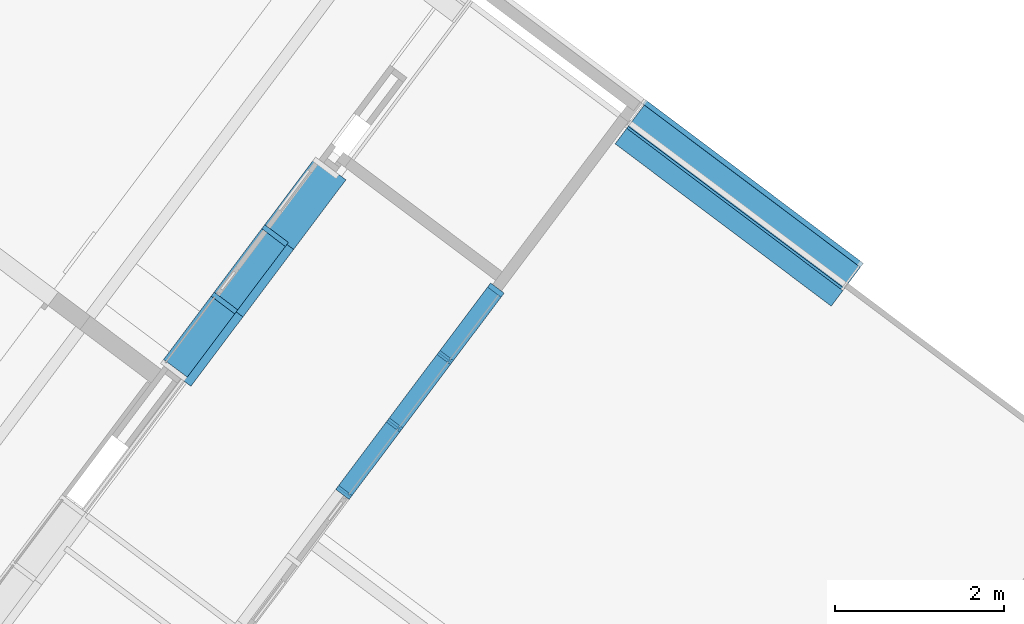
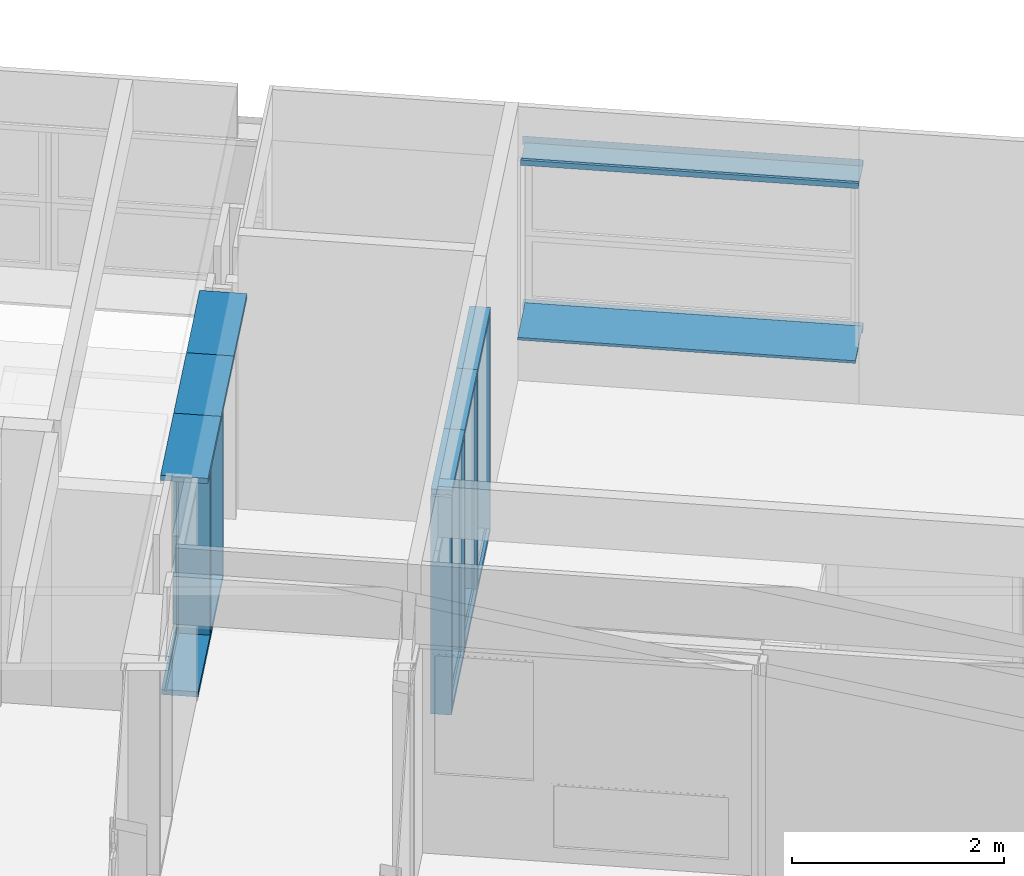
# One storey, part 29 of 243: 21 members, 4 elements without a shape of their own.
"""IFC2X3 building model written with IfcOpenShell, lengths in metres."""

from ifc_helpers import new_model, entity, si_unit, converted_unit, derived_unit, direction, frame, frame_2d, origin, origin_2d_with_axis, place, context, subcontext, project, spatial, polyline, rectangle, outline, extrude, source, transform, mapped, material, type_object, type_shapes, element, aggregate, save


model = new_model("IFC2X3")

# Units and contexts
model_context = context("Model", 3, precision=1e-05, world=origin(), true_north=direction((6.123031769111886e-17, 1.0)))
body_context = subcontext(model_context, "Body", "Model", "MODEL_VIEW")
ifc_project = project(units=[si_unit("LENGTHUNIT", "METRE"), si_unit("AREAUNIT", "SQUARE_METRE"), si_unit("VOLUMEUNIT", "CUBIC_METRE"), converted_unit("PLANEANGLEUNIT", "DEGREE", entity("IfcRatioMeasure", 0.017453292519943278), si_unit("PLANEANGLEUNIT", "RADIAN"), dimensions=[0, 0, 0, 0, 0, 0, 0]), si_unit("MASSUNIT", "GRAM", prefix="KILO"), derived_unit("MASSDENSITYUNIT", [(si_unit("MASSUNIT", "GRAM", prefix="KILO"), 1), (si_unit("LENGTHUNIT", "METRE"), -3)]), derived_unit("IONCONCENTRATIONUNIT", [(si_unit("MASSUNIT", "GRAM", prefix="KILO"), 1), (si_unit("LENGTHUNIT", "METRE"), -3)]), derived_unit("MOMENTOFINERTIAUNIT", [(si_unit("LENGTHUNIT", "METRE"), 4)]), si_unit("TIMEUNIT", "SECOND"), si_unit("FREQUENCYUNIT", "HERTZ"), si_unit("THERMODYNAMICTEMPERATUREUNIT", "DEGREE_CELSIUS"), derived_unit("THERMALTRANSMITTANCEUNIT", [(si_unit("MASSUNIT", "GRAM", prefix="KILO"), 1), (si_unit("THERMODYNAMICTEMPERATUREUNIT", "KELVIN"), -1), (si_unit("TIMEUNIT", "SECOND"), -3)]), derived_unit("THERMALCONDUCTANCEUNIT", [(si_unit("MASSUNIT", "GRAM", prefix="KILO"), 1), (si_unit("THERMODYNAMICTEMPERATUREUNIT", "KELVIN"), -1), (si_unit("TIMEUNIT", "SECOND"), -3), (si_unit("LENGTHUNIT", "METRE"), 1)]), derived_unit("VOLUMETRICFLOWRATEUNIT", [(si_unit("LENGTHUNIT", "METRE"), 3), (si_unit("TIMEUNIT", "SECOND"), -1)]), derived_unit("MASSFLOWRATEUNIT", [(si_unit("MASSUNIT", "GRAM", prefix="KILO"), 1), (si_unit("TIMEUNIT", "SECOND"), -1)]), derived_unit("ROTATIONALFREQUENCYUNIT", [(si_unit("TIMEUNIT", "SECOND"), -1)]), si_unit("ELECTRICCURRENTUNIT", "AMPERE"), si_unit("ELECTRICVOLTAGEUNIT", "VOLT"), si_unit("POWERUNIT", "WATT"), si_unit("FORCEUNIT", "NEWTON", prefix="KILO"), si_unit("ILLUMINANCEUNIT", "LUX"), si_unit("LUMINOUSFLUXUNIT", "LUMEN"), si_unit("LUMINOUSINTENSITYUNIT", "CANDELA"), derived_unit("USERDEFINED", [(si_unit("MASSUNIT", "GRAM", prefix="KILO"), -1), (si_unit("LENGTHUNIT", "METRE"), -2), (si_unit("TIMEUNIT", "SECOND"), 3), (si_unit("LUMINOUSFLUXUNIT", "LUMEN"), 1)]), derived_unit("USERDEFINED", [(si_unit("MASSUNIT", "GRAM", prefix="KILO"), 1), (si_unit("TIMEUNIT", "SECOND"), -3), (si_unit("LENGTHUNIT", "METRE"), 3), (si_unit("ELECTRICCURRENTUNIT", "AMPERE"), -2)]), derived_unit("SOUNDPOWERUNIT", [(si_unit("MASSUNIT", "GRAM", prefix="KILO"), 1), (si_unit("TIMEUNIT", "SECOND"), -3), (si_unit("LENGTHUNIT", "METRE"), 2)]), derived_unit("SOUNDPRESSUREUNIT", [(si_unit("MASSUNIT", "GRAM", prefix="KILO"), 1), (si_unit("LENGTHUNIT", "METRE"), -1), (si_unit("TIMEUNIT", "SECOND"), -2)]), derived_unit("LINEARVELOCITYUNIT", [(si_unit("LENGTHUNIT", "METRE"), 1), (si_unit("TIMEUNIT", "SECOND"), -1)]), si_unit("PRESSUREUNIT", "PASCAL"), derived_unit("USERDEFINED", [(si_unit("MASSUNIT", "GRAM", prefix="KILO"), 1), (si_unit("LENGTHUNIT", "METRE"), -2), (si_unit("TIMEUNIT", "SECOND"), -2)]), derived_unit("LINEARFORCEUNIT", [(si_unit("MASSUNIT", "GRAM", prefix="KILO"), 1), (si_unit("TIMEUNIT", "SECOND"), -2)]), derived_unit("PLANARFORCEUNIT", [(si_unit("MASSUNIT", "GRAM", prefix="KILO"), 1), (si_unit("LENGTHUNIT", "METRE"), -1), (si_unit("TIMEUNIT", "SECOND"), -2)]), derived_unit("SPECIFICHEATCAPACITYUNIT", [(si_unit("THERMODYNAMICTEMPERATUREUNIT", "KELVIN"), -1), (si_unit("LENGTHUNIT", "METRE"), 2), (si_unit("TIMEUNIT", "SECOND"), -2)]), derived_unit("HEATINGVALUEUNIT", [(si_unit("LENGTHUNIT", "METRE"), 2), (si_unit("TIMEUNIT", "SECOND"), -2)]), derived_unit("VAPORPERMEABILITYUNIT", [(si_unit("LENGTHUNIT", "METRE"), -1), (si_unit("TIMEUNIT", "SECOND"), 1)]), derived_unit("DYNAMICVISCOSITYUNIT", [(si_unit("MASSUNIT", "GRAM", prefix="KILO"), 1), (si_unit("TIMEUNIT", "SECOND"), -1), (si_unit("LENGTHUNIT", "METRE"), -1)]), derived_unit("THERMALEXPANSIONCOEFFICIENTUNIT", [(si_unit("THERMODYNAMICTEMPERATUREUNIT", "KELVIN"), -1)]), derived_unit("MODULUSOFELASTICITYUNIT", [(si_unit("MASSUNIT", "GRAM", prefix="KILO"), 1), (si_unit("LENGTHUNIT", "METRE"), -1), (si_unit("TIMEUNIT", "SECOND"), -2)]), derived_unit("ISOTHERMALMOISTURECAPACITYUNIT", [(si_unit("LENGTHUNIT", "METRE"), 3), (si_unit("MASSUNIT", "GRAM", prefix="KILO"), -1)]), derived_unit("MOISTUREDIFFUSIVITYUNIT", [(si_unit("TIMEUNIT", "SECOND"), -1), (si_unit("LENGTHUNIT", "METRE"), 2)])], contexts=[model_context])

# Site, building, storey
site_placement = place(None, frame((0.0, 0.0, 235.0), z_axis=(0.0, 0.0, 1.0), x_axis=(-0.7996477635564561, 0.6004693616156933, 0.0)))
site = spatial("IfcSite", under=ifc_project, at=site_placement, Name="Default", CompositionType="ELEMENT")
building_placement = place(site_placement, origin())
building = spatial("IfcBuilding", under=site, at=building_placement, CompositionType="ELEMENT")
storey_placement = place(building_placement, origin())
storey = spatial("IfcBuildingStorey", under=building, at=storey_placement, Name="P0- Escola", CompositionType="ELEMENT", Elevation=0.0)

# Curtain wall, members
curtain_wall_type_1 = type_object("IfcCurtainWallType", Name="Muro cortina:MC- INT- a4", PredefinedType="NOTDEFINED")
curtain_wall_1_placement = place(storey_placement, origin())
curtain_wall_1 = element("IfcCurtainWall", 1, at=curtain_wall_1_placement, inside=storey, type_object=curtain_wall_type_1, Name="Muro cortina:MC- INT- a4", ObjectType="Muro cortina:MC- INT- a4")
ifc_material_1 = material(Name="_Fusta massisa- T1")
member_type_1 = type_object("IfcMemberType", Name="Montante rectangular:MC- Fusta- 45x6 cm- Superior porta", PredefinedType="MULLION", material=ifc_material_1)
shared_shape_1 = source(origin(), body_context, "Body", "SweptSolid", [
    extrude(rectangle(XDim=0.45000000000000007, YDim=0.06, at=frame_2d((-4.163336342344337e-17, 0.0), x_axis=(1.0, 0.0))), frame((-0.03, -0.18500000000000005, -1.027499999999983), z_axis=(0.0, 0.0, 1.0), x_axis=(0.0, -1.0, 0.0)), (0.0, 0.0, 1.0), 1.027499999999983),
])
type_shapes(member_type_1, [shared_shape_1])
member_1_placement = place(curtain_wall_1_placement, frame((15.955147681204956, -36.38769175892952, 2.565), z_axis=(0.0, 1.0, 0.0), x_axis=(0.0, 0.0, 1.0)))
member_1 = element("IfcMember", 2, at=member_1_placement, type_object=member_type_1, material=ifc_material_1, Name="Montante rectangular:MC- Fusta- 45x6 cm- Superior porta", ObjectType="Montante rectangular:MC- Fusta- 45x6 cm- Superior porta", context=body_context, shape_type="MappedRepresentation", body=[
    mapped(shared_shape_1, transform((0.0, 0.0, 0.0), scale=1.0)),
])
member_type_2 = type_object("IfcMemberType", Name="Montante rectangular:MC- Fusta- 45x6 cm- Superior vidre", PredefinedType="MULLION", material=ifc_material_1)
shared_shape_2 = source(origin(), body_context, "Body", "SweptSolid", [
    extrude(outline(polyline([(-0.08250000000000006, -0.01875000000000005), (0.3175000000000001, -0.01875000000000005), (0.3175000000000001, 0.041249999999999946), (-0.13249999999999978, 0.041249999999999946), (-0.1325, -0.018749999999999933), (-0.10250000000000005, -0.018749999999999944), (-0.10249999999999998, -0.0037499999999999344), (-0.08250000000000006, -0.0037499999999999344), (-0.08250000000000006, -0.01875000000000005)])), frame((-0.041249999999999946, -0.09249999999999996, -1.0325000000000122), z_axis=(0.0, 0.0, 1.0), x_axis=(0.0, -1.0, 0.0)), (0.0, 0.0, 1.0), 1.0325000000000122),
])
type_shapes(member_type_2, [shared_shape_2])
member_2_placement = place(curtain_wall_1_placement, frame((15.95514768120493, -38.4151917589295, 2.565), z_axis=(0.0, 1.0, 0.0), x_axis=(0.0, 0.0, 1.0)))
member_2 = element("IfcMember", 3, at=member_2_placement, type_object=member_type_2, material=ifc_material_1, Name="Montante rectangular:MC- Fusta- 45x6 cm- Superior vidre", ObjectType="Montante rectangular:MC- Fusta- 45x6 cm- Superior vidre", context=body_context, shape_type="MappedRepresentation", body=[
    mapped(shared_shape_2, transform((0.0, 0.0, 0.0), scale=1.0)),
])
member_type_3 = type_object("IfcMemberType", Name="Montante rectangular:MC- Fusta- 35x6 cm- Neutre", PredefinedType="MULLION", material=ifc_material_1)
shared_shape_3 = source(origin(), body_context, "Body", "SweptSolid", [
    extrude(rectangle(XDim=0.3500000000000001, YDim=0.06, at=origin_2d_with_axis()), frame((0.0, -0.13499999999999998, -2.5050000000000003), z_axis=(0.0, 0.0, 1.0), x_axis=(0.0, -1.0, 0.0)), (0.0, 0.0, 1.0), 2.5050000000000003),
])
type_shapes(member_type_3, [shared_shape_3])
member_3_placement = place(curtain_wall_1_placement, frame((15.95514768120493, -38.4151917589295, 0.0), z_axis=(0.0, 0.0, -1.0), x_axis=(0.0, 1.0, 0.0)))
member_3 = element("IfcMember", 4, at=member_3_placement, type_object=member_type_3, material=ifc_material_1, Name="Montante rectangular:MC- Fusta- 35x6 cm- Neutre", ObjectType="Montante rectangular:MC- Fusta- 35x6 cm- Neutre", context=body_context, shape_type="MappedRepresentation", body=[
    mapped(shared_shape_3, transform((0.0, 0.0, 0.0), scale=1.0)),
])
member_type_4 = type_object("IfcMemberType", Name="Montante rectangular:MC- Fusta- 45x6 cm- Superior vidre", PredefinedType="MULLION", material=ifc_material_1)
shared_shape_4 = source(origin(), body_context, "Body", "SweptSolid", [
    extrude(outline(polyline([(-0.13250000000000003, -0.01874999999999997), (-0.10250000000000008, -0.01874999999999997), (-0.10250000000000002, -0.0037499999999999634), (-0.0825000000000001, -0.0037499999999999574), (-0.0825000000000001, -0.018750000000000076), (0.3175000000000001, -0.018749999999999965), (0.3175000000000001, 0.04125000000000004), (-0.13249999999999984, 0.04124999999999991), (-0.13250000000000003, -0.01874999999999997)])), frame((-0.041249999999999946, -0.09249999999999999, -1.0), z_axis=(0.0, 0.0, 1.0), x_axis=(0.0, -1.0, 0.0)), (0.0, 0.0, 1.0), 0.9999999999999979),
])
type_shapes(member_type_4, [shared_shape_4])
member_4_placement = place(curtain_wall_1_placement, frame((15.955147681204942, -37.4151917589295, 2.565), z_axis=(0.0, 1.0, 0.0), x_axis=(0.0, 0.0, 1.0)))
member_4 = element("IfcMember", 5, at=member_4_placement, type_object=member_type_4, material=ifc_material_1, Name="Montante rectangular:MC- Fusta- 45x6 cm- Superior vidre", ObjectType="Montante rectangular:MC- Fusta- 45x6 cm- Superior vidre", context=body_context, shape_type="MappedRepresentation", body=[
    mapped(shared_shape_4, transform((0.0, 0.0, 0.0), scale=1.0)),
])
member_type_5 = type_object("IfcMemberType", Name="Montante rectangular:MC- Fusta- 35x6 cm- Dreta", PredefinedType="MULLION", material=ifc_material_1)
shared_shape_5 = source(origin(), body_context, "Body", "SweptSolid", [
    extrude(outline(polyline([(-0.10750000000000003, -0.041249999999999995), (0.2425, -0.041249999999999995), (0.2425, 0.018750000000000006), (-0.05750000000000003, 0.018750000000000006), (-0.05750000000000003, 0.0037500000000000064), (-0.07750000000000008, 0.0037500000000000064), (-0.07749999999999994, 0.018749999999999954), (-0.10749999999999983, 0.018750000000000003), (-0.10750000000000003, -0.041249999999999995)])), frame((0.011250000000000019, -0.06749999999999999, -2.5050000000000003), z_axis=(0.0, 0.0, 1.0), x_axis=(0.0, -1.0, 0.0)), (0.0, 0.0, 1.0), 2.5050000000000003),
])
type_shapes(member_type_5, [shared_shape_5])
member_5_placement = place(curtain_wall_1_placement, frame((15.955147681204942, -37.4151917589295, 0.0), z_axis=(0.0, 0.0, -1.0), x_axis=(0.0, 1.0, 0.0)))
member_5 = element("IfcMember", 6, at=member_5_placement, type_object=member_type_5, material=ifc_material_1, Name="Montante rectangular:MC- Fusta- 35x6 cm- Dreta", ObjectType="Montante rectangular:MC- Fusta- 35x6 cm- Dreta", context=body_context, shape_type="MappedRepresentation", body=[
    mapped(shared_shape_5, transform((0.0, 0.0, 0.0), scale=1.0)),
])
member_type_6 = type_object("IfcMemberType", Name="Montante rectangular:MC- Fusta- 35x6 cm- Neutre", PredefinedType="MULLION", material=ifc_material_1)
shared_shape_6 = source(origin(), body_context, "Body", "SweptSolid", [
    extrude(rectangle(XDim=0.3500000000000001, YDim=0.06, at=origin_2d_with_axis()), frame((-0.03, -0.13499999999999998, -0.9399999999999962), z_axis=(0.0, 0.0, 1.0), x_axis=(0.0, -1.0, 0.0)), (0.0, 0.0, 1.0), 0.9399999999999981),
])
type_shapes(member_type_6, [shared_shape_6])
member_6_placement = place(curtain_wall_1_placement, frame((15.95514768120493, -38.385191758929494, 0.0), z_axis=(0.0, -1.0, 0.0), x_axis=(0.0, 0.0, -1.0)))
member_6 = element("IfcMember", 7, at=member_6_placement, type_object=member_type_6, material=ifc_material_1, Name="Montante rectangular:MC- Fusta- 35x6 cm- Neutre", ObjectType="Montante rectangular:MC- Fusta- 35x6 cm- Neutre", context=body_context, shape_type="MappedRepresentation", body=[
    mapped(shared_shape_6, transform((0.0, 0.0, 0.0), scale=1.0)),
])
member_type_7 = type_object("IfcMemberType", Name="Montante rectangular:MC- Fusta- 35x6 cm- Inferior", PredefinedType="MULLION", material=ifc_material_1)
shared_shape_7 = source(origin(), body_context, "Body", "SweptSolid", [
    extrude(outline(polyline([(-0.10749999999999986, -0.01874999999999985), (-0.07750000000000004, -0.01874999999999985), (-0.07750000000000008, -0.0037499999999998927), (-0.057500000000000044, -0.003749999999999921), (-0.05750000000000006, -0.01874999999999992), (0.24249999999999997, -0.018750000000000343), (0.24250000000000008, 0.041249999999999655), (-0.10749999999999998, 0.04125000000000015), (-0.10749999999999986, -0.01874999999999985)])), frame((-0.041249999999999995, -0.06749999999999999, -0.937499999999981), z_axis=(0.0, 0.0, 1.0), x_axis=(0.0, -1.0, 0.0)), (0.0, 0.0, 1.0), 0.9374999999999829),
])
type_shapes(member_type_7, [shared_shape_7])
member_7_placement = place(curtain_wall_1_placement, frame((15.955147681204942, -37.3851917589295, 0.0), z_axis=(0.0, -1.0, 0.0), x_axis=(0.0, 0.0, -1.0)))
member_7 = element("IfcMember", 8, at=member_7_placement, type_object=member_type_7, material=ifc_material_1, Name="Montante rectangular:MC- Fusta- 35x6 cm- Inferior", ObjectType="Montante rectangular:MC- Fusta- 35x6 cm- Inferior", context=body_context, shape_type="MappedRepresentation", body=[
    mapped(shared_shape_7, transform((0.0, 0.0, 0.0), scale=1.0)),
])
aggregate(curtain_wall_1, [member_1, member_2, member_3, member_4, member_5, member_6, member_7])

curtain_wall_type_2 = type_object("IfcCurtainWallType", Name="Muro cortina:MC- INT- a3", PredefinedType="NOTDEFINED")
curtain_wall_2_placement = place(storey_placement, origin())
curtain_wall_2 = element("IfcCurtainWall", 9, at=curtain_wall_2_placement, inside=storey, type_object=curtain_wall_type_2, Name="Muro cortina:MC- INT- a3", ObjectType="Muro cortina:MC- INT- a3")
member_type_8 = type_object("IfcMemberType", Name="Montante rectangular:MC- Fusta- 20x6 cm- Neutre", PredefinedType="MULLION", material=ifc_material_1)
shared_shape_8 = source(origin(), body_context, "Body", "SweptSolid", [
    extrude(rectangle(XDim=0.19999999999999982, YDim=0.06, at=frame_2d((4.85722573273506e-17, 0.0), x_axis=(1.0, 0.0))), frame((-0.03, 0.060000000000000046, -2.5050000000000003), z_axis=(0.0, 0.0, 1.0), x_axis=(0.0, -1.0, 0.0)), (0.0, 0.0, 1.0), 2.5050000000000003),
])
type_shapes(member_type_8, [shared_shape_8])
member_8_placement = place(curtain_wall_2_placement, frame((13.279147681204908, -39.500191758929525, 2.5050000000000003), z_axis=(0.0, 0.0, 1.0), x_axis=(0.0, -1.0, 0.0)))
member_8 = element("IfcMember", 10, at=member_8_placement, type_object=member_type_8, material=ifc_material_1, Name="Montante rectangular:MC- Fusta- 20x6 cm- Neutre", ObjectType="Montante rectangular:MC- Fusta- 20x6 cm- Neutre", context=body_context, shape_type="MappedRepresentation", body=[
    mapped(shared_shape_8, transform((0.0, 0.0, 0.0), scale=1.0)),
])
member_type_9 = type_object("IfcMemberType", Name="Montante rectangular:MC- Fusta- 20x6 cm- Esquerra", PredefinedType="MULLION", material=ifc_material_1)
shared_shape_9 = source(origin(), body_context, "Body", "SweptSolid", [
    extrude(outline(polyline([(-0.13000000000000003, -0.018750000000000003), (0.020000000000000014, -0.018750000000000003), (0.020000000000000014, -0.003750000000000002), (0.040000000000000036, -0.003750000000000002), (0.04000000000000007, -0.01875000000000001), (0.07000000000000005, -0.018750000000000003), (0.06999999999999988, 0.041249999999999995), (-0.13000000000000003, 0.041249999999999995), (-0.13000000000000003, -0.018750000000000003)])), frame((-0.041249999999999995, 0.030000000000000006, -1.0299999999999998), z_axis=(0.0, 0.0, 1.0), x_axis=(0.0, -1.0, 0.0)), (0.0, 0.0, 1.0), 1.0299999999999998),
])
type_shapes(member_type_9, [shared_shape_9])
member_9_placement = place(curtain_wall_2_placement, frame((13.279147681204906, -38.4701917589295, 2.565), z_axis=(0.0, 1.0, 0.0), x_axis=(0.0, 0.0, 1.0)))
member_9 = element("IfcMember", 11, at=member_9_placement, type_object=member_type_9, material=ifc_material_1, Name="Montante rectangular:MC- Fusta- 20x6 cm- Esquerra", ObjectType="Montante rectangular:MC- Fusta- 20x6 cm- Esquerra", context=body_context, shape_type="MappedRepresentation", body=[
    mapped(shared_shape_9, transform((0.0, 0.0, 0.0), scale=1.0)),
])
member_type_10 = type_object("IfcMemberType", Name="Montante rectangular:MC- Fusta- 20x6 cm- Centre", PredefinedType="MULLION", material=ifc_material_1)
shared_shape_10 = source(origin(), body_context, "Body", "SweptSolid", [
    extrude(outline(polyline([(-0.14, -0.03), (0.009999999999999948, -0.03), (0.009999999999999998, -0.014999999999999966), (0.030000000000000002, -0.015), (0.030000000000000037, -0.030000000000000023), (0.060000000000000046, -0.029999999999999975), (0.059999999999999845, 0.030000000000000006), (0.030000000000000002, 0.029999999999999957), (0.030000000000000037, 0.015), (0.010000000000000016, 0.015), (0.010000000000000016, 0.03), (-0.14, 0.03), (-0.14, -0.03)])), frame((0.0, 0.019999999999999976, -2.505000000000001), z_axis=(0.0, 0.0, 1.0), x_axis=(0.0, -1.0, 0.0)), (0.0, 0.0, 1.0), 2.5050000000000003),
])
type_shapes(member_type_10, [shared_shape_10])
member_10_placement = place(curtain_wall_2_placement, frame((13.279147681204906, -38.4701917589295, 0.0), z_axis=(0.0, 0.0, -1.0), x_axis=(0.0, 1.0, 0.0)))
member_10 = element("IfcMember", 12, at=member_10_placement, type_object=member_type_10, material=ifc_material_1, Name="Montante rectangular:MC- Fusta- 20x6 cm- Centre", ObjectType="Montante rectangular:MC- Fusta- 20x6 cm- Centre", context=body_context, shape_type="MappedRepresentation", body=[
    mapped(shared_shape_10, transform((0.0, 0.0, 0.0), scale=1.0)),
])
member_11_placement = place(curtain_wall_2_placement, frame((13.279147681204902, -37.4701917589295, 0.0), z_axis=(0.0, 0.0, -1.0), x_axis=(0.0, 1.0, 0.0)))
member_11 = element("IfcMember", 13, at=member_11_placement, type_object=member_type_10, material=ifc_material_1, Name="Montante rectangular:MC- Fusta- 20x6 cm- Centre", ObjectType="Montante rectangular:MC- Fusta- 20x6 cm- Centre", context=body_context, shape_type="MappedRepresentation", body=[
    mapped(shared_shape_10, transform((0.0, 0.0, 0.0), scale=1.0)),
])
member_type_11 = type_object("IfcMemberType", Name="Montante rectangular:MC- Fusta- 20x6 cm- Esquerra", PredefinedType="MULLION", material=ifc_material_1)
shared_shape_11 = source(origin(), body_context, "Body", "SweptSolid", [
    extrude(outline(polyline([(-0.12999999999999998, -0.018750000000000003), (0.019999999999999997, -0.018750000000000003), (0.019999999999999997, -0.003750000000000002), (0.04000000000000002, -0.003750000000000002), (0.04000000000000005, -0.01875000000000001), (0.07000000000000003, -0.018750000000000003), (0.06999999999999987, 0.041249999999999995), (-0.12999999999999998, 0.041249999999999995), (-0.12999999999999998, -0.018750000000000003)])), frame((-0.041249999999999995, 0.029999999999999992, -1.0), z_axis=(0.0, 0.0, 1.0), x_axis=(0.0, -1.0, 0.0)), (0.0, 0.0, 1.0), 0.9999999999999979),
])
type_shapes(member_type_11, [shared_shape_11])
member_12_placement = place(curtain_wall_2_placement, frame((13.279147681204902, -37.4701917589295, 2.565), z_axis=(0.0, 1.0, 0.0), x_axis=(0.0, 0.0, 1.0)))
member_12 = element("IfcMember", 14, at=member_12_placement, type_object=member_type_11, material=ifc_material_1, Name="Montante rectangular:MC- Fusta- 20x6 cm- Esquerra", ObjectType="Montante rectangular:MC- Fusta- 20x6 cm- Esquerra", context=body_context, shape_type="MappedRepresentation", body=[
    mapped(shared_shape_11, transform((0.0, 0.0, 0.0), scale=1.0)),
])
member_13_placement = place(curtain_wall_2_placement, frame((13.2791476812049, -36.4701917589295, 2.565), z_axis=(0.0, 1.0, 0.0), x_axis=(0.0, 0.0, 1.0)))
member_13 = element("IfcMember", 15, at=member_13_placement, type_object=member_type_11, material=ifc_material_1, Name="Montante rectangular:MC- Fusta- 20x6 cm- Esquerra", ObjectType="Montante rectangular:MC- Fusta- 20x6 cm- Esquerra", context=body_context, shape_type="MappedRepresentation", body=[
    mapped(shared_shape_11, transform((0.0, 0.0, 0.0), scale=1.0)),
])
member_type_12 = type_object("IfcMemberType", Name="Montante rectangular:MC- Fusta- 20x6 cm- Esquerra", PredefinedType="MULLION", material=ifc_material_1)
shared_shape_12 = source(origin(), body_context, "Body", "SweptSolid", [
    extrude(outline(polyline([(-0.13, -0.018750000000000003), (0.02, -0.018750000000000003), (0.02, -0.003750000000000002), (0.04000000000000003, -0.003750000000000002), (0.04000000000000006, -0.01875000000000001), (0.07000000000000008, -0.018750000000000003), (0.06999999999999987, 0.041249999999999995), (-0.13, 0.041249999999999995), (-0.13, -0.018750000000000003)])), frame((-0.01124999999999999, 0.029999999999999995, -2.5050000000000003), z_axis=(0.0, 0.0, 1.0), x_axis=(0.0, -1.0, 0.0)), (0.0, 0.0, 1.0), 2.5050000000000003),
])
type_shapes(member_type_12, [shared_shape_12])
member_14_placement = place(curtain_wall_2_placement, frame((13.2791476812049, -36.4701917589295, 0.0), z_axis=(0.0, 0.0, -1.0), x_axis=(0.0, 1.0, 0.0)))
member_14 = element("IfcMember", 16, at=member_14_placement, type_object=member_type_12, material=ifc_material_1, Name="Montante rectangular:MC- Fusta- 20x6 cm- Esquerra", ObjectType="Montante rectangular:MC- Fusta- 20x6 cm- Esquerra", context=body_context, shape_type="MappedRepresentation", body=[
    mapped(shared_shape_12, transform((0.0, 0.0, 0.0), scale=1.0)),
])
member_type_13 = type_object("IfcMemberType", Name="Montante rectangular:MC- Fusta- 20x6 cm- Inferior", PredefinedType="MULLION", material=ifc_material_1)
shared_shape_13 = source(origin(), body_context, "Body", "SweptSolid", [
    extrude(outline(polyline([(-0.12999999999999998, -0.018750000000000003), (0.01999999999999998, -0.018750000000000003), (0.01999999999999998, -0.0037500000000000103), (0.04, -0.0037500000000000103), (0.039999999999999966, -0.018750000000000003), (0.06999999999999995, -0.018750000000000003), (0.07000000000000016, 0.041249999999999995), (-0.12999999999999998, 0.041249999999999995), (-0.12999999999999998, -0.018750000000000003)])), frame((-0.041249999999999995, 0.029999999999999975, -0.9399999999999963), z_axis=(0.0, 0.0, 1.0), x_axis=(0.0, -1.0, 0.0)), (0.0, 0.0, 1.0), 0.9399999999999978),
])
type_shapes(member_type_13, [shared_shape_13])
member_15_placement = place(curtain_wall_2_placement, frame((13.279147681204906, -38.4401917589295, 0.0), z_axis=(0.0, -1.0, 0.0), x_axis=(0.0, 0.0, -1.0)))
member_15 = element("IfcMember", 17, at=member_15_placement, type_object=member_type_13, material=ifc_material_1, Name="Montante rectangular:MC- Fusta- 20x6 cm- Inferior", ObjectType="Montante rectangular:MC- Fusta- 20x6 cm- Inferior", context=body_context, shape_type="MappedRepresentation", body=[
    mapped(shared_shape_13, transform((0.0, 0.0, 0.0), scale=1.0)),
])
member_16_placement = place(curtain_wall_2_placement, frame((13.279147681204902, -37.4401917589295, 0.0), z_axis=(0.0, -1.0, 0.0), x_axis=(0.0, 0.0, -1.0)))
member_16 = element("IfcMember", 18, at=member_16_placement, type_object=member_type_13, material=ifc_material_1, Name="Montante rectangular:MC- Fusta- 20x6 cm- Inferior", ObjectType="Montante rectangular:MC- Fusta- 20x6 cm- Inferior", context=body_context, shape_type="MappedRepresentation", body=[
    mapped(shared_shape_13, transform((0.0, 0.0, 0.0), scale=1.0)),
])
member_17_placement = place(curtain_wall_2_placement, frame((13.279147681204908, -39.44019175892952, 0.0), z_axis=(0.0, -1.0, 0.0), x_axis=(0.0, 0.0, -1.0)))
member_17 = element("IfcMember", 19, at=member_17_placement, type_object=member_type_13, material=ifc_material_1, Name="Montante rectangular:MC- Fusta- 20x6 cm- Inferior", ObjectType="Montante rectangular:MC- Fusta- 20x6 cm- Inferior", context=body_context, shape_type="MappedRepresentation", body=[
    mapped(shared_shape_13, transform((0.0, 0.0, 0.0), scale=1.0)),
])
aggregate(curtain_wall_2, [member_8, member_9, member_10, member_12, member_11, member_13, member_14, member_15, member_16, member_17])

curtain_wall_type_3 = type_object("IfcCurtainWallType", Name="Muro cortina:MC- INT- Fa Pista", PredefinedType="NOTDEFINED")
curtain_wall_3_placement = place(storey_placement, origin())
curtain_wall_3 = element("IfcCurtainWall", 20, at=curtain_wall_3_placement, inside=storey, type_object=curtain_wall_type_3, Name="Muro cortina:MC- INT- Fa Pista", ObjectType="Muro cortina:MC- INT- Fa Pista")
member_type_14 = type_object("IfcMemberType", Name="Montante rectangular:MC- Fusta- 34x3 cm- Fa Pista- Remat Inferior", PredefinedType="MULLION", material=ifc_material_1)
shared_shape_14 = source(origin(), body_context, "Body", "SweptSolid", [
    extrude(outline(polyline([(-0.2966666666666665, -0.015000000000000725), (0.2783333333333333, -0.015000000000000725), (0.27833333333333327, 0.015000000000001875), (0.01833333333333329, 0.015000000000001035), (0.018333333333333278, 0.0), (-0.2966666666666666, 0.0), (-0.2966666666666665, -0.015000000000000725)])), frame((-0.015000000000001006, -0.04666666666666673, -3.204999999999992), z_axis=(0.0, 0.0, 1.0), x_axis=(0.0, -1.0, 0.0)), (0.0, 0.0, 1.0), 3.204999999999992),
])
type_shapes(member_type_14, [shared_shape_14])
member_18_placement = place(curtain_wall_3_placement, frame((10.045147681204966, -42.03019175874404, 0.6550000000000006), z_axis=(-1.0, 0.0, 0.0), x_axis=(0.0, 0.0, -1.0)))
member_18 = element("IfcMember", 21, at=member_18_placement, type_object=member_type_14, material=ifc_material_1, Name="Montante rectangular:MC- Fusta- 34x3 cm- Fa Pista- Remat Inferior", ObjectType="Montante rectangular:MC- Fusta- 34x3 cm- Fa Pista- Remat Inferior", context=body_context, shape_type="MappedRepresentation", body=[
    mapped(shared_shape_14, transform((0.0, 0.0, 0.0), scale=1.0)),
])
member_type_15 = type_object("IfcMemberType", Name="Montante rectangular:MC- Fusta- 34x3 cm- Fa Pista- Remat Superior", PredefinedType="MULLION", material=ifc_material_1)
shared_shape_15 = source(origin(), body_context, "Body", "SweptSolid", [
    extrude(outline(polyline([(-0.2199999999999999, -0.02666666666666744), (0.12500000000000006, -0.02666666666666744), (0.12499999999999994, 0.03333333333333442), (0.09499999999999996, 0.03333333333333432), (0.09499999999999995, -0.0066666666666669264), (-0.21999999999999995, -0.006666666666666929), (-0.2199999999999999, -0.02666666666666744)])), frame((-0.033333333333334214, 0.029999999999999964, -3.204999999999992), z_axis=(0.0, 0.0, 1.0), x_axis=(0.0, -1.0, 0.0)), (0.0, 0.0, 1.0), 3.2049999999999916),
])
type_shapes(member_type_15, [shared_shape_15])
member_19_placement = place(curtain_wall_3_placement, frame((13.25014768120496, -42.030191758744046, 2.565), z_axis=(1.0, 0.0, 0.0), x_axis=(0.0, 0.0, 1.0)))
member_19 = element("IfcMember", 22, at=member_19_placement, type_object=member_type_15, material=ifc_material_1, Name="Montante rectangular:MC- Fusta- 34x3 cm- Fa Pista- Remat Superior", ObjectType="Montante rectangular:MC- Fusta- 34x3 cm- Fa Pista- Remat Superior", context=body_context, shape_type="MappedRepresentation", body=[
    mapped(shared_shape_15, transform((0.0, 0.0, 0.0), scale=1.0)),
])
aggregate(curtain_wall_3, [member_18, member_19])

curtain_wall_type_4 = type_object("IfcCurtainWallType", Name="Muro cortina:MC- EXT- MC6", PredefinedType="NOTDEFINED")
curtain_wall_4_placement = place(storey_placement, origin())
curtain_wall_4 = element("IfcCurtainWall", 23, at=curtain_wall_4_placement, inside=storey, type_object=curtain_wall_type_4, Name="Muro cortina:MC- EXT- MC6", ObjectType="Muro cortina:MC- EXT- MC6")
ifc_material_2 = material(Name="_Alumini- T1- Perfil")
member_type_16 = type_object("IfcMemberType", Name="Montante rectangular:MC- Alu- 52x80 cm- Fa pista- inferior", PredefinedType="MULLION", material=ifc_material_2)
shared_shape_16 = source(origin(), body_context, "Body", "SweptSolid", [
    extrude(rectangle(XDim=0.06000000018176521, YDim=0.085, at=origin_2d_with_axis()), frame((-0.0425, -0.030000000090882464, -3.2262818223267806), z_axis=(0.0, 0.0, 1.0), x_axis=(0.0, -1.0, 0.0)), (0.0, 0.0, 1.0), 3.2262818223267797),
])
type_shapes(member_type_16, [shared_shape_16])
member_20_placement = place(curtain_wall_4_placement, frame((10.045147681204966, -42.34019175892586, 0.6000000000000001), z_axis=(-1.0, 0.0, 0.0), x_axis=(0.0, 0.0, -1.0)))
member_20 = element("IfcMember", 24, at=member_20_placement, type_object=member_type_16, material=ifc_material_2, Name="Montante rectangular:MC- Alu- 52x80 cm- Fa pista- inferior", ObjectType="Montante rectangular:MC- Alu- 52x80 cm- Fa pista- inferior", context=body_context, shape_type="MappedRepresentation", body=[
    mapped(shared_shape_16, transform((0.0, 0.0, 0.0), scale=1.0)),
])
member_type_17 = type_object("IfcMemberType", Name="Montante rectangular:MC- Alu- 140x52,5 cm- Fa pista- Superior", PredefinedType="MULLION", material=ifc_material_2)
shared_shape_17 = source(origin(), body_context, "Body", "SweptSolid", [
    extrude(outline(polyline([(-0.03933333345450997, -0.04916666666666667), (0.02066666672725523, -0.04916666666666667), (0.020666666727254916, 0.048333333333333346), (0.018666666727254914, 0.04833333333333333), (0.018666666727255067, 0.00083333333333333), (-0.03933333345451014, 0.00083333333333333), (-0.03933333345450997, -0.04916666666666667)])), frame((-0.048333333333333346, -0.03933333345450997, -3.226281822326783), z_axis=(0.0, 0.0, 1.0), x_axis=(0.0, -1.0, 0.0)), (0.0, 0.0, 1.0), 3.226281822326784),
])
type_shapes(member_type_17, [shared_shape_17])
member_21_placement = place(curtain_wall_4_placement, frame((13.27142950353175, -42.340191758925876, 2.6000000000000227), z_axis=(1.0, 0.0, 0.0), x_axis=(0.0, 0.0, 1.0)))
member_21 = element("IfcMember", 25, at=member_21_placement, type_object=member_type_17, material=ifc_material_2, Name="Montante rectangular:MC- Alu- 140x52,5 cm- Fa pista- Superior", ObjectType="Montante rectangular:MC- Alu- 140x52,5 cm- Fa pista- Superior", context=body_context, shape_type="MappedRepresentation", body=[
    mapped(shared_shape_17, transform((0.0, 0.0, 0.0), scale=1.0)),
])
aggregate(curtain_wall_4, [member_20, member_21])

save(model, "model.ifc")
